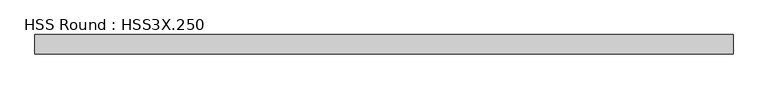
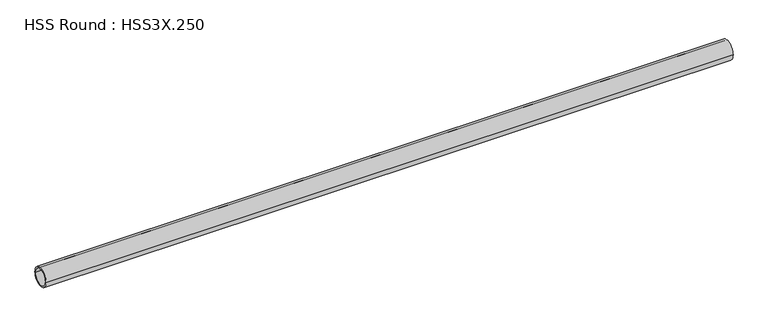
"""IFC4 building model written with IfcOpenShell, lengths in millimetres: member geometry, HSS Round : HSS3X.250."""

from ifc_helpers import new_model, si_unit, point, frame, origin, origin_2d, place, context, project, spatial, circle_curve, trimmed, segment, composite_curve, outline, extrude, source, transform, mapped, element, save


def hss_round_hss3x_250_0314b11b(model_context):
    return source(origin(), model_context, "Body", "SweptSolid", [
        extrude(outline(composite_curve([segment(trimmed(circle_curve(origin_2d(), 38.1), [point((-38.1, 0.0))], [point((38.1, 0.0))], False, "CARTESIAN"), True, "CONTINUOUS"), segment(trimmed(circle_curve(origin_2d(), 38.1), [point((38.1, 0.0))], [point((-38.1, 0.0))], False, "CARTESIAN"), True, "CONTINUOUS")], self_intersect=False), holes=[composite_curve([segment(trimmed(circle_curve(origin_2d(), 31.75), [point((31.75, 0.0))], [point((-31.75, 0.0))], True, "CARTESIAN"), True, "CONTINUOUS"), segment(trimmed(circle_curve(origin_2d(), 31.75), [point((-31.75, 0.0))], [point((31.75, 0.0))], True, "CARTESIAN"), True, "CONTINUOUS")], self_intersect=False)]), frame((-1405.8616731, 0.0, 0.0), z_axis=(1.0, 0.0, 0.0), x_axis=(0.0, 1.0, 0.0)), (0.0, 0.0, 1.0), 2728.8835406),
    ])


if __name__ == "__main__":
    model = new_model("IFC4")
    model_context = context("Model", 3, world=origin())
    ifc_project = project(units=[si_unit("LENGTHUNIT", "METRE", prefix="MILLI")], contexts=[model_context])
    site = spatial("IfcSite", under=ifc_project)
    building = spatial("IfcBuilding", under=site)
    placement = place(None, origin())
    hss_round_hss3x_250_shape = hss_round_hss3x_250_0314b11b(model_context)
    element("IfcMember", 1, ObjectType="HSS Round : HSS3X.250", at=placement, inside=building, context=model_context, shape_type="MappedRepresentation", body=[
        mapped(hss_round_hss3x_250_shape, transform((0.0, 0.0, 0.0), x_axis=(1.0, 0.0, 0.0), y_axis=(0.0, 1.0, 0.0), z_axis=(0.0, 0.0, 1.0))),
    ])
    save(model, "model.ifc")
